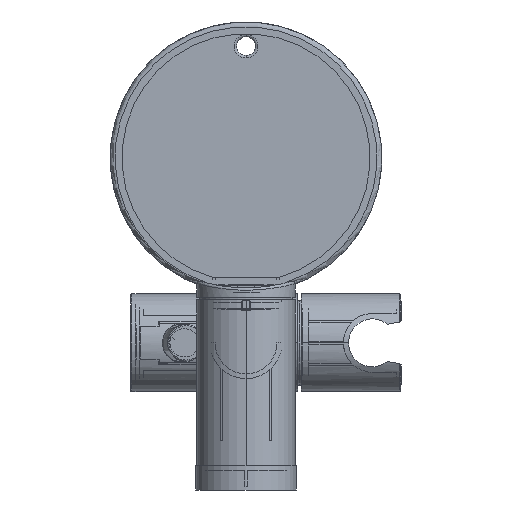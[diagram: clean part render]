
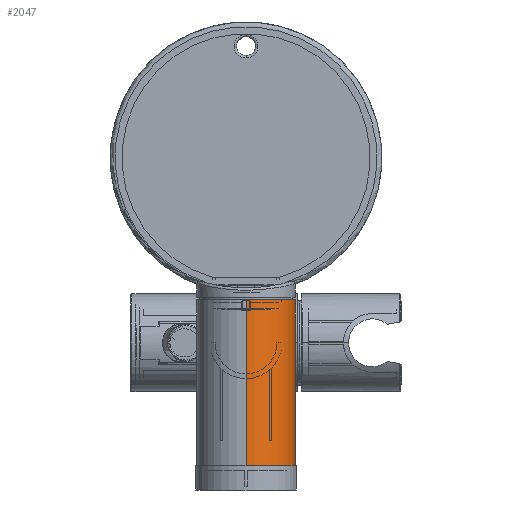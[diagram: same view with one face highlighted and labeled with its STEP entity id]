
A CAD part, front view. The second image highlights one B-rep face of the part: STEP entity #2047.
In plain terms, the highlighted cylindrical face has radius 20 mm (diameter 40 mm), a partial arc.
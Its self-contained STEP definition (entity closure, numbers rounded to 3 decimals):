
#922=CARTESIAN_POINT('',(-580.5,-4.9,0.));
#923=CARTESIAN_POINT('',(-580.5,-4.9,0.594));
#924=CARTESIAN_POINT('',(-580.552,-4.982,1.811));
#925=CARTESIAN_POINT('',(-580.822,-5.415,3.754));
#926=CARTESIAN_POINT('',(-581.281,-6.173,5.641));
#927=CARTESIAN_POINT('',(-581.883,-7.22,7.38));
#928=CARTESIAN_POINT('',(-582.583,-8.541,8.937));
#929=CARTESIAN_POINT('',(-583.32,-10.105,10.271));
#930=CARTESIAN_POINT('',(-584.001,-11.855,11.321));
#931=CARTESIAN_POINT('',(-584.531,-13.635,12.048));
#932=CARTESIAN_POINT('',(-584.899,-15.647,12.516));
#933=CARTESIAN_POINT('',(-585.002,-17.495,12.642));
#934=CARTESIAN_POINT('',(-584.901,-19.323,12.519));
#935=CARTESIAN_POINT('',(-584.548,-21.279,12.07));
#936=CARTESIAN_POINT('',(-584.063,-22.953,11.408));
#937=CARTESIAN_POINT('',(-583.42,-24.663,10.434));
#938=CARTESIAN_POINT('',(-582.66,-26.31,9.093));
#939=CARTESIAN_POINT('',(-581.915,-27.724,7.467));
#940=CARTESIAN_POINT('',(-581.293,-28.806,5.685));
#941=CARTESIAN_POINT('',(-580.834,-29.566,3.81));
#942=CARTESIAN_POINT('',(-580.558,-30.009,1.881));
#943=CARTESIAN_POINT('',(-580.5,-30.1,0.623));
#944=CARTESIAN_POINT('',(-580.5,-30.1,0.));
#946=DIRECTION('',(0.,-1.,0.));
#947=VECTOR('',#946,37.4);
#948=CARTESIAN_POINT('',(-580.5,-30.1,0.));
#949=LINE('',#948,#947);
#950=DIRECTION('',(0.,1.,0.));
#951=VECTOR('',#950,67.5);
#952=CARTESIAN_POINT('',(-620.5,-67.5,0.));
#953=LINE('',#952,#951);
#954=DIRECTION('',(0.,-1.,0.));
#955=VECTOR('',#954,4.9);
#956=CARTESIAN_POINT('',(-580.5,0.,0.));
#957=LINE('',#956,#955);
#963=CARTESIAN_POINT('',(-600.5,-67.5,0.));
#964=DIRECTION('',(0.,1.,0.));
#965=DIRECTION('',(-1.,0.,0.));
#966=AXIS2_PLACEMENT_3D('',#963,#964,#965);
#978=CARTESIAN_POINT('',(-600.5,0.,0.));
#979=DIRECTION('',(0.,-1.,0.));
#980=DIRECTION('',(1.,0.,0.));
#981=AXIS2_PLACEMENT_3D('',#978,#979,#980);
#1148=CARTESIAN_POINT('',(-580.5,-30.1,0.));
#1150=VERTEX_POINT('',#1148);
#1218=CARTESIAN_POINT('',(-580.5,-4.9,0.));
#1219=VERTEX_POINT('',#1218);
#1220=CARTESIAN_POINT('',(-580.5,-67.5,0.));
#1221=CARTESIAN_POINT('',(-620.5,-67.5,0.));
#1222=VERTEX_POINT('',#1220);
#1223=VERTEX_POINT('',#1221);
#1224=CARTESIAN_POINT('',(-620.5,0.,0.));
#1225=VERTEX_POINT('',#1224);
#1226=CARTESIAN_POINT('',(-580.5,0.,0.));
#1227=VERTEX_POINT('',#1226);
#2032=CARTESIAN_POINT('',(-600.5,1.35,0.));
#2033=DIRECTION('',(0.,-1.,0.));
#2034=DIRECTION('',(1.,0.,0.));
#2035=AXIS2_PLACEMENT_3D('',#2032,#2033,#2034);
#2036=CYLINDRICAL_SURFACE('',#2035,20.);
#2037=ORIENTED_EDGE('',*,*,#1493,.T.);
#2038=ORIENTED_EDGE('',*,*,#2027,.T.);
#2040=ORIENTED_EDGE('',*,*,#2039,.F.);
#2041=ORIENTED_EDGE('',*,*,#2023,.T.);
#2043=ORIENTED_EDGE('',*,*,#2042,.F.);
#2044=ORIENTED_EDGE('',*,*,#2019,.T.);
#2045=EDGE_LOOP('',(#2037,#2038,#2040,#2041,#2043,#2044));
#2046=FACE_OUTER_BOUND('',#2045,.F.);
#2047=ADVANCED_FACE('',(#2046),#2036,.T.);
#945=B_SPLINE_CURVE_WITH_KNOTS('',3,(#922,#923,#924,#925,#926,#927,#928,#929,
#930,#931,#932,#933,#934,#935,#936,#937,#938,#939,#940,#941,#942,#943,#944),
.UNSPECIFIED.,.F.,.F.,(4,1,1,1,1,1,1,1,1,1,1,1,1,1,1,1,1,1,1,1,4),(0.,0.05,
0.1,0.15,0.2,0.25,0.3,0.35,0.4,0.45,0.5,0.55,0.6,0.65,
0.7,0.75,0.8,0.85,0.9,0.95,1.),.UNSPECIFIED.);
#967=CIRCLE('',#966,20.);
#982=CIRCLE('',#981,20.);
#1493=EDGE_CURVE('',#1219,#1150,#945,.T.);
#2019=EDGE_CURVE('',#1227,#1219,#957,.T.);
#2023=EDGE_CURVE('',#1223,#1225,#953,.T.);
#2027=EDGE_CURVE('',#1150,#1222,#949,.T.);
#2039=EDGE_CURVE('',#1223,#1222,#967,.T.);
#2042=EDGE_CURVE('',#1227,#1225,#982,.T.);
